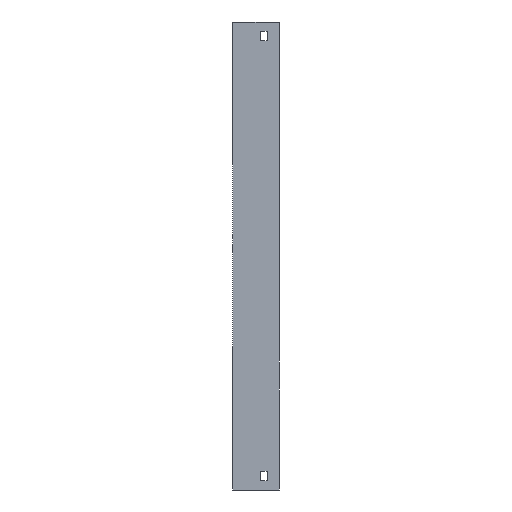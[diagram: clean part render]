
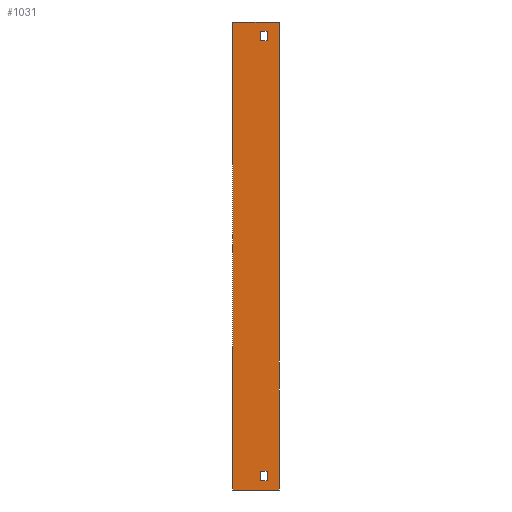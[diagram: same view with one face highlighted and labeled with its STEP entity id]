
A CAD part, left-side view. The second image highlights one B-rep face of the part: STEP entity #1031.
In plain terms, the highlighted planar face has unit normal (-1, 0, 0).
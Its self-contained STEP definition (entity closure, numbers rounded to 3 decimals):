
#11 = LINE ( 'NONE', #1838, #1245 ) ;
#15 = CARTESIAN_POINT ( 'NONE',  ( -304., 50., 50. ) ) ;
#44 = EDGE_CURVE ( 'NONE', #1651, #1233, #1124, .T. ) ;
#58 = LINE ( 'NONE', #1578, #796 ) ;
#67 = EDGE_CURVE ( 'NONE', #619, #1651, #1556, .T. ) ;
#92 = VECTOR ( 'NONE', #805, 1000. ) ;
#98 = AXIS2_PLACEMENT_3D ( 'NONE', #942, #642, #659 ) ;
#116 = CARTESIAN_POINT ( 'NONE',  ( -304., 20., -434. ) ) ;
#121 = VERTEX_POINT ( 'NONE', #416 ) ;
#139 = CARTESIAN_POINT ( 'NONE',  ( -304., 0., 50. ) ) ;
#140 = VERTEX_POINT ( 'NONE', #671 ) ;
#159 = ORIENTED_EDGE ( 'NONE', *, *, #989, .T. ) ;
#171 = EDGE_LOOP ( 'NONE', ( #159, #1831, #1583, #1300 ) ) ;
#196 = EDGE_CURVE ( 'NONE', #777, #1276, #1558, .T. ) ;
#201 = LINE ( 'NONE', #658, #1484 ) ;
#208 = VERTEX_POINT ( 'NONE', #836 ) ;
#268 = CARTESIAN_POINT ( 'NONE',  ( -304., 13., 40. ) ) ;
#339 = VECTOR ( 'NONE', #1518, 1000. ) ;
#356 = EDGE_CURVE ( 'NONE', #750, #140, #58, .T. ) ;
#395 = CARTESIAN_POINT ( 'NONE',  ( -304., 20., -434. ) ) ;
#405 = CARTESIAN_POINT ( 'NONE',  ( -304., 50., -454. ) ) ;
#410 = EDGE_CURVE ( 'NONE', #1276, #208, #669, .T. ) ;
#416 = CARTESIAN_POINT ( 'NONE',  ( -304., 13., -444. ) ) ;
#450 = ORIENTED_EDGE ( 'NONE', *, *, #1419, .T. ) ;
#473 = CARTESIAN_POINT ( 'NONE',  ( -304., 20., 30. ) ) ;
#484 = PLANE ( 'NONE',  #98 ) ;
#540 = DIRECTION ( 'NONE',  ( 0., -1., 0. ) ) ;
#570 = ORIENTED_EDGE ( 'NONE', *, *, #1715, .F. ) ;
#593 = ORIENTED_EDGE ( 'NONE', *, *, #196, .F. ) ;
#598 = DIRECTION ( 'NONE',  ( 0., -1., 0. ) ) ;
#605 = CARTESIAN_POINT ( 'NONE',  ( -304., 20., 40. ) ) ;
#619 = VERTEX_POINT ( 'NONE', #1227 ) ;
#642 = DIRECTION ( 'NONE',  ( 1., 0., 0. ) ) ;
#653 = EDGE_CURVE ( 'NONE', #121, #777, #1301, .T. ) ;
#658 = CARTESIAN_POINT ( 'NONE',  ( -304., 20., -444. ) ) ;
#659 = DIRECTION ( 'NONE',  ( 0., 0., -1. ) ) ;
#665 = VERTEX_POINT ( 'NONE', #15 ) ;
#669 = LINE ( 'NONE', #1357, #1911 ) ;
#671 = CARTESIAN_POINT ( 'NONE',  ( -304., 0., -454. ) ) ;
#750 = VERTEX_POINT ( 'NONE', #1806 ) ;
#777 = VERTEX_POINT ( 'NONE', #1081 ) ;
#778 = LINE ( 'NONE', #1501, #1302 ) ;
#783 = FACE_BOUND ( 'NONE', #1681, .T. ) ;
#796 = VECTOR ( 'NONE', #540, 1000. ) ;
#804 = FACE_OUTER_BOUND ( 'NONE', #171, .T. ) ;
#805 = DIRECTION ( 'NONE',  ( 0., 0., -1. ) ) ;
#828 = EDGE_CURVE ( 'NONE', #750, #665, #1136, .T. ) ;
#836 = CARTESIAN_POINT ( 'NONE',  ( -304., 20., -444. ) ) ;
#941 = DIRECTION ( 'NONE',  ( 0., -1., 0. ) ) ;
#942 = CARTESIAN_POINT ( 'NONE',  ( -304., 50., -454. ) ) ;
#947 = VERTEX_POINT ( 'NONE', #605 ) ;
#951 = CARTESIAN_POINT ( 'NONE',  ( -304., 0., -454. ) ) ;
#989 = EDGE_CURVE ( 'NONE', #140, #1815, #1680, .T. ) ;
#1019 = ORIENTED_EDGE ( 'NONE', *, *, #44, .T. ) ;
#1031 = ADVANCED_FACE ( 'NONE', ( #804, #783, #1415 ), #484, .F. ) ;
#1079 = ORIENTED_EDGE ( 'NONE', *, *, #410, .F. ) ;
#1081 = CARTESIAN_POINT ( 'NONE',  ( -304., 13., -434. ) ) ;
#1098 = DIRECTION ( 'NONE',  ( 0., 0., 1. ) ) ;
#1124 = LINE ( 'NONE', #1173, #1821 ) ;
#1136 = LINE ( 'NONE', #405, #1239 ) ;
#1151 = CARTESIAN_POINT ( 'NONE',  ( -304., 13., -444. ) ) ;
#1173 = CARTESIAN_POINT ( 'NONE',  ( -304., 20., 30. ) ) ;
#1227 = CARTESIAN_POINT ( 'NONE',  ( -304., 13., 40. ) ) ;
#1233 = VERTEX_POINT ( 'NONE', #473 ) ;
#1239 = VECTOR ( 'NONE', #1579, 1000. ) ;
#1245 = VECTOR ( 'NONE', #1249, 1000. ) ;
#1249 = DIRECTION ( 'NONE',  ( 0., -1., 0. ) ) ;
#1259 = DIRECTION ( 'NONE',  ( 0., 0., 1. ) ) ;
#1276 = VERTEX_POINT ( 'NONE', #116 ) ;
#1300 = ORIENTED_EDGE ( 'NONE', *, *, #356, .T. ) ;
#1301 = LINE ( 'NONE', #1151, #1625 ) ;
#1302 = VECTOR ( 'NONE', #598, 1000. ) ;
#1310 = ORIENTED_EDGE ( 'NONE', *, *, #653, .F. ) ;
#1338 = ORIENTED_EDGE ( 'NONE', *, *, #1422, .T. ) ;
#1357 = CARTESIAN_POINT ( 'NONE',  ( -304., 20., -444. ) ) ;
#1369 = CARTESIAN_POINT ( 'NONE',  ( -304., 13., 30. ) ) ;
#1415 = FACE_BOUND ( 'NONE', #1741, .T. ) ;
#1419 = EDGE_CURVE ( 'NONE', #1233, #947, #1947, .T. ) ;
#1422 = EDGE_CURVE ( 'NONE', #947, #619, #778, .T. ) ;
#1481 = VECTOR ( 'NONE', #1098, 1000. ) ;
#1484 = VECTOR ( 'NONE', #941, 1000. ) ;
#1501 = CARTESIAN_POINT ( 'NONE',  ( -304., 20., 40. ) ) ;
#1518 = DIRECTION ( 'NONE',  ( 0., 0., 1. ) ) ;
#1538 = ORIENTED_EDGE ( 'NONE', *, *, #67, .T. ) ;
#1556 = LINE ( 'NONE', #268, #92 ) ;
#1558 = LINE ( 'NONE', #395, #1664 ) ;
#1578 = CARTESIAN_POINT ( 'NONE',  ( -304., 50., -454. ) ) ;
#1579 = DIRECTION ( 'NONE',  ( 0., 0., 1. ) ) ;
#1583 = ORIENTED_EDGE ( 'NONE', *, *, #828, .F. ) ;
#1625 = VECTOR ( 'NONE', #1259, 1000. ) ;
#1651 = VERTEX_POINT ( 'NONE', #1369 ) ;
#1655 = EDGE_CURVE ( 'NONE', #665, #1815, #11, .T. ) ;
#1664 = VECTOR ( 'NONE', #1864, 1000. ) ;
#1680 = LINE ( 'NONE', #951, #1481 ) ;
#1681 = EDGE_LOOP ( 'NONE', ( #450, #1338, #1538, #1019 ) ) ;
#1715 = EDGE_CURVE ( 'NONE', #208, #121, #201, .T. ) ;
#1741 = EDGE_LOOP ( 'NONE', ( #570, #1079, #593, #1310 ) ) ;
#1758 = DIRECTION ( 'NONE',  ( 0., 1., 0. ) ) ;
#1806 = CARTESIAN_POINT ( 'NONE',  ( -304., 50., -454. ) ) ;
#1815 = VERTEX_POINT ( 'NONE', #139 ) ;
#1821 = VECTOR ( 'NONE', #1758, 1000. ) ;
#1831 = ORIENTED_EDGE ( 'NONE', *, *, #1655, .F. ) ;
#1838 = CARTESIAN_POINT ( 'NONE',  ( -304., 50., 50. ) ) ;
#1864 = DIRECTION ( 'NONE',  ( 0., 1., 0. ) ) ;
#1911 = VECTOR ( 'NONE', #1928, 1000. ) ;
#1923 = CARTESIAN_POINT ( 'NONE',  ( -304., 20., 40. ) ) ;
#1928 = DIRECTION ( 'NONE',  ( 0., 0., -1. ) ) ;
#1947 = LINE ( 'NONE', #1923, #339 ) ;
